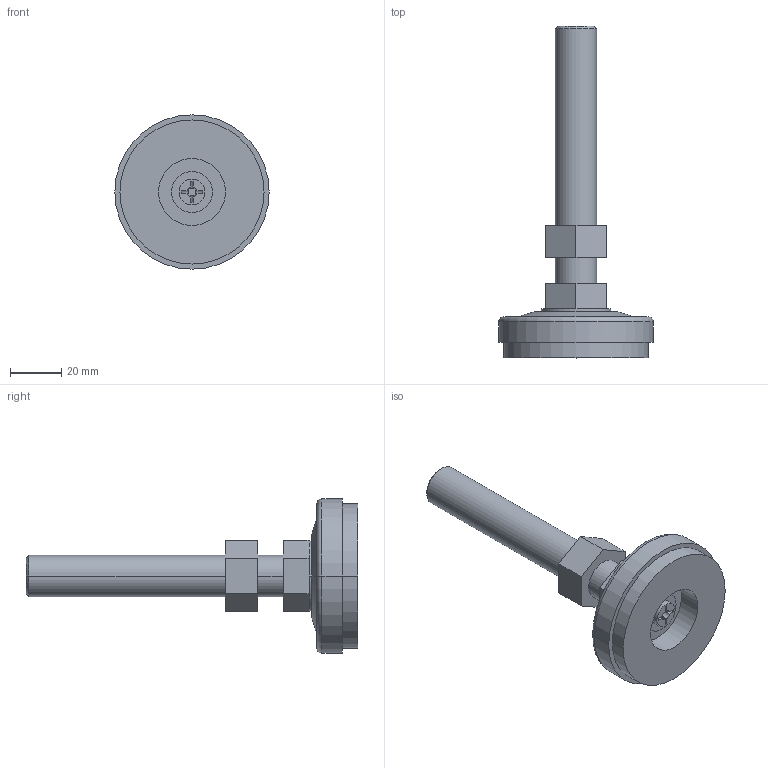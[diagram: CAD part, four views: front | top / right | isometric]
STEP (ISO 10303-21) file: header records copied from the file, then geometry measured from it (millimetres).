
FILE_DESCRIPTION (( 'STEP AP214' ), '1' );
FILE_NAME ('EA19S-16100.STEP', '2016-01-24T05:33:35', ( '' ), ( '' ), 'SwSTEP 2.0', 'SolidWorks 2012', '' );
FILE_SCHEMA (( 'AUTOMOTIVE_DESIGN' ));
Length unit declared in the file: millimetre
Products named in the file (1): EA19S-16100
Bounding box: 60 x 129 x 60 mm (x, y, z)
Volume: 70382.2 mm3; surface area: 16379.9 mm2
Topology: 1 solids, 1 shells, 76 faces, 174 edges, 110 vertices
Faces by surface type: plane 48, cylinder 16, cone 8, torus 4
Entity records: 2182 total; most frequent: DIRECTION 386, CARTESIAN_POINT 385, ORIENTED_EDGE 348, EDGE_CURVE 174, AXIS2_PLACEMENT_3D 143, VERTEX_POINT 110, LINE 100, VECTOR 100
